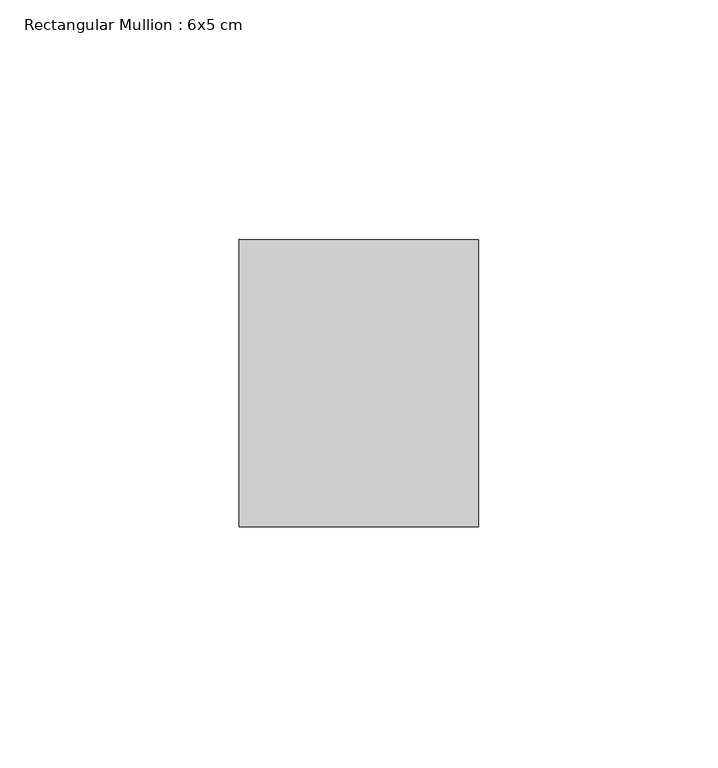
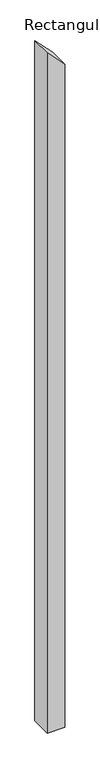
"""IFC4 building model written with IfcOpenShell, lengths in millimetres: member geometry, Rectangular Mullion : 6x5 cm."""

from ifc_helpers import new_model, si_unit, frame, origin, place, context, project, spatial, polyline, outline, extrude, source, transform, mapped, element, save


def rectangular_mullion_6x5_cm_68429f73(model_context):
    return source(origin(), model_context, "Body", "SweptSolid", [
        extrude(outline(polyline([(-98.3849277, 25.0), (-46.1833952, -25.0), (-2088.0613018, -25.0), (-2088.0613018, 25.0), (-98.3849277, 25.0)])), frame((0.0, 20.0, 0.0), z_axis=(0.0, 1.0, 0.0), x_axis=(0.0, 0.0, 1.0)), (0.0, 0.0, 1.0), 60.0),
    ])


if __name__ == "__main__":
    model = new_model("IFC4")
    model_context = context("Model", 3, world=origin())
    ifc_project = project(units=[si_unit("LENGTHUNIT", "METRE", prefix="MILLI")], contexts=[model_context])
    site = spatial("IfcSite", under=ifc_project)
    building = spatial("IfcBuilding", under=site)
    placement = place(None, origin())
    rectangular_mullion_6x5_cm_shape = rectangular_mullion_6x5_cm_68429f73(model_context)
    element("IfcMember", 1, ObjectType="Rectangular Mullion : 6x5 cm", at=placement, inside=building, context=model_context, shape_type="MappedRepresentation", body=[
        mapped(rectangular_mullion_6x5_cm_shape, transform((0.0, 0.0, 0.0), x_axis=(1.0, 0.0, 0.0), y_axis=(0.0, 1.0, 0.0), z_axis=(0.0, 0.0, 1.0))),
    ])
    save(model, "model.ifc")
